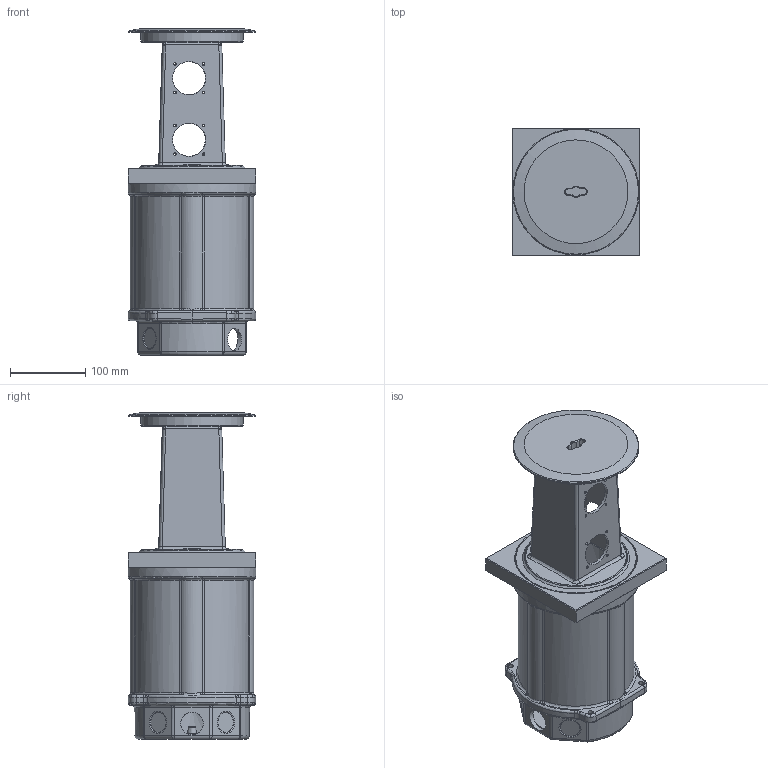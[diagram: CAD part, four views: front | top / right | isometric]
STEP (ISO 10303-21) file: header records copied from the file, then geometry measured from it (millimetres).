
FILE_DESCRIPTION(/* description */ (''),/* implementation_level */ '2;1');
FILE_NAME(/* name */ 'D:\LW_K\INVENTOR\Dummy Zeichnungen Bodendosen\Dummy Zeichnungen MASSO\MASSO_8000_Dummy.stp',/* time_stamp */ '2021-05-20T09:36:11+02:00',/* author */ ('mayrhofer'),/* organization */ (''),/* preprocessor_version */ 'ST-DEVELOPER v18.1',/* originating_system */ 'Autodesk Inventor 2021',/* authorisation */ '');
FILE_SCHEMA (('AUTOMOTIVE_DESIGN { 1 0 10303 214 3 1 1 }'));
Length unit declared in the file: millimetre
Products named in the file (6): MASSO_8000_Dummy; MASSO8000_GEHÄUSE_3DINV; Rahmen MASSO_3DINV; Anschlagring_MASSO_AUSSEN_3DINV; Deckel_MASSO_3DINV; Einsatzträger_6XSCHUKO_3DINV
Assembly tree (5 placements, depth 2):
  MASSO_8000_Dummy
    MASSO8000_GEHÄUSE_3DINV
    Rahmen MASSO_3DINV
    Anschlagring_MASSO_AUSSEN_3DINV
    Deckel_MASSO_3DINV
    Einsatzträger_6XSCHUKO_3DINV
Bounding box: 170 x 170 x 434.5 mm (x, y, z)
Volume: 1784630.5 mm3; surface area: 507673.3 mm2
Topology: 5 solids, 5 shells, 688 faces, 1726 edges, 1061 vertices
Faces by surface type: plane 245, bspline 179, cylinder 163, torus 52, cone 31, sphere 18
Full cylindrical faces by diameter (mm): 3.4 x24, 6.8 x4, 30 x3, 44 x6, 136 x2, 136.4 x1, 137.7 x1, 161.4 x1, 162 x1, 168 x1, 170 x1
Entity records: 29327 total; most frequent: CARTESIAN_POINT 13144, ORIENTED_EDGE 3416, DIRECTION 3152, EDGE_CURVE 1708, AXIS2_PLACEMENT_3D 1195, VERTEX_POINT 1061, EDGE_LOOP 797, LINE 762
